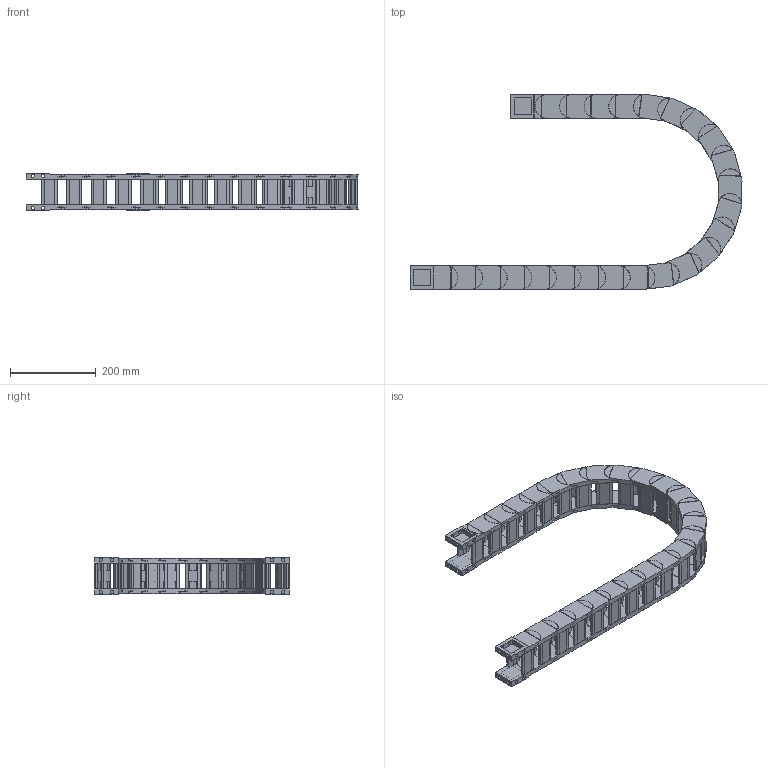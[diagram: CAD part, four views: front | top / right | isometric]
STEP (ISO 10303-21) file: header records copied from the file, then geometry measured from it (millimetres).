
FILE_DESCRIPTION((''),'2;1');
FILE_NAME('HD35-R200-ZPT_ASM','2022-05-05T08:26:16',('admin'),(''),'CREO PARAMETRIC BY PTC INC, 2021164','CREO PARAMETRIC BY PTC INC, 2021164','');
FILE_SCHEMA(('CONFIG_CONTROL_DESIGN','GEOMETRIC_VALIDATION_PROPERTIES_MIM'));
Length unit declared in the file: millimetre
Products named in the file (6): HD35; 35-600001; HD35_ASM; 35-TL_11; 35-WL; HD35-R200-ZPT_ASM
Assembly tree (29 placements, depth 3):
  HD35-R200-ZPT_ASM
    HD35_ASM  x23
      HD35
      35-600001
    35-TL_11
    35-WL
    35-600001  x2
Bounding box: 775.24 x 454.93 x 88 mm (x, y, z)
Volume: 2869447 mm3; surface area: 1073750.7 mm2
Topology: 100 solids, 100 shells, 1858 faces, 4946 edges, 3392 vertices
Faces by surface type: plane 1268, cylinder 590
Entity records: 9467 total; most frequent: DIRECTION 1432, CARTESIAN_POINT 1422, ORIENTED_EDGE 1300, EDGE_CURVE 650, AXIS2_PLACEMENT_3D 511, VERTEX_POINT 440, VECTOR 410, LINE 410
